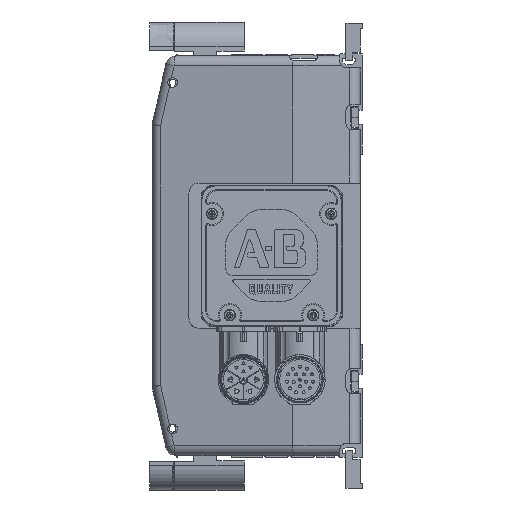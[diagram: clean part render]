
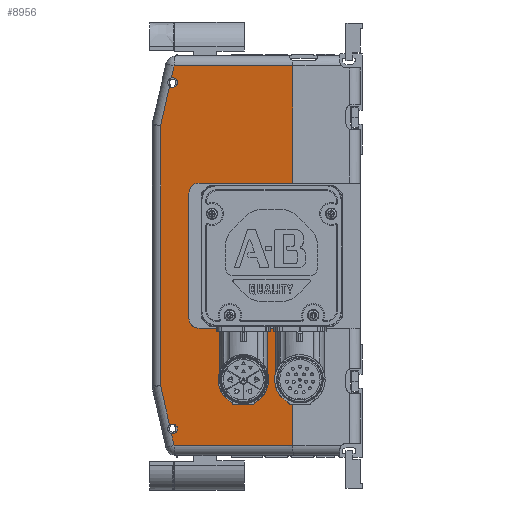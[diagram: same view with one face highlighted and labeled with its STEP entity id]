
A CAD part, left-side view. The second image highlights one B-rep face of the part: STEP entity #8956.
In plain terms, the highlighted planar face has unit normal (-0.985, 0.172, 0).
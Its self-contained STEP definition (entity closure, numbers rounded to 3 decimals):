
#7444=DIRECTION('',(0.,0.,1.));
#7445=VECTOR('',#7444,58.071);
#7446=CARTESIAN_POINT('',(0.,33.317,36.002));
#7447=LINE('',#7446,#7445);
#7522=DIRECTION('',(0.,0.,1.));
#7523=VECTOR('',#7522,58.075);
#7524=CARTESIAN_POINT('',(0.,33.317,-94.073));
#7525=LINE('',#7524,#7523);
#7669=DIRECTION('',(0.172,0.985,0.));
#7670=VECTOR('',#7669,47.214);
#7671=CARTESIAN_POINT('',(0.,33.317,36.002));
#7672=LINE('',#7671,#7670);
#7673=CARTESIAN_POINT('',(8.142,79.823,36.002));
#7674=CARTESIAN_POINT('',(8.287,80.65,36.002));
#7675=CARTESIAN_POINT('',(8.514,81.952,35.644));
#7676=CARTESIAN_POINT('',(8.772,83.424,34.62));
#7677=CARTESIAN_POINT('',(8.953,84.457,33.15));
#7678=CARTESIAN_POINT('',(9.017,84.823,31.842));
#7679=CARTESIAN_POINT('',(9.017,84.823,31.002));
#7681=DIRECTION('',(0.,0.,-1.));
#7682=VECTOR('',#7681,62.);
#7683=CARTESIAN_POINT('',(9.017,84.823,31.002));
#7684=LINE('',#7683,#7682);
#7685=CARTESIAN_POINT('',(9.017,84.823,-30.998));
#7686=CARTESIAN_POINT('',(9.017,84.823,-31.838));
#7687=CARTESIAN_POINT('',(8.953,84.457,-33.146));
#7688=CARTESIAN_POINT('',(8.772,83.424,-34.616));
#7689=CARTESIAN_POINT('',(8.514,81.952,-35.64));
#7690=CARTESIAN_POINT('',(8.287,80.65,-35.998));
#7691=CARTESIAN_POINT('',(8.142,79.823,-35.998));
#7693=DIRECTION('',(0.172,0.985,0.));
#7694=VECTOR('',#7693,47.214);
#7695=CARTESIAN_POINT('',(0.,33.317,-35.998));
#7696=LINE('',#7695,#7694);
#7697=DIRECTION('',(0.172,0.985,0.));
#7698=VECTOR('',#7697,59.786);
#7699=CARTESIAN_POINT('',(0.,33.317,-94.073));
#7700=LINE('',#7699,#7698);
#7701=DIRECTION('',(0.038,0.219,0.975));
#7702=VECTOR('',#7701,6.036);
#7703=CARTESIAN_POINT('',(10.31,92.207,-94.073));
#7704=LINE('',#7703,#7702);
#7705=DIRECTION('',(0.038,0.219,0.975));
#7706=VECTOR('',#7705,20.124);
#7707=CARTESIAN_POINT('',(10.705,94.462,-84.016));
#7708=LINE('',#7707,#7706);
#7709=DIRECTION('',(-0.038,-0.219,0.975));
#7710=VECTOR('',#7709,20.101);
#7711=CARTESIAN_POINT('',(11.475,98.862,64.394));
#7712=LINE('',#7711,#7710);
#7713=DIRECTION('',(-0.038,-0.219,0.975));
#7714=VECTOR('',#7713,6.064);
#7715=CARTESIAN_POINT('',(10.542,93.533,88.16));
#7716=LINE('',#7715,#7714);
#7717=DIRECTION('',(-0.172,-0.985,0.));
#7718=VECTOR('',#7717,59.786);
#7719=CARTESIAN_POINT('',(10.31,92.207,94.073));
#7720=LINE('',#7719,#7718);
#7993=CARTESIAN_POINT('',(10.436,92.93,83.437));
#7994=CARTESIAN_POINT('',(10.387,92.647,83.437));
#7995=CARTESIAN_POINT('',(10.28,92.036,83.54));
#7996=CARTESIAN_POINT('',(10.13,91.182,84.088));
#7997=CARTESIAN_POINT('',(10.034,90.633,84.949));
#7998=CARTESIAN_POINT('',(10.007,90.479,85.837));
#7999=CARTESIAN_POINT('',(10.034,90.633,86.725));
#8000=CARTESIAN_POINT('',(10.13,91.182,87.586));
#8001=CARTESIAN_POINT('',(10.28,92.036,88.134));
#8002=CARTESIAN_POINT('',(10.387,92.647,88.237));
#8003=CARTESIAN_POINT('',(10.436,92.93,88.237));
#8009=CARTESIAN_POINT('',(10.436,92.93,88.237));
#8010=CARTESIAN_POINT('',(10.472,93.134,88.237));
#8011=CARTESIAN_POINT('',(10.507,93.335,88.211));
#8012=CARTESIAN_POINT('',(10.542,93.533,88.16));
#8018=CARTESIAN_POINT('',(10.705,94.467,83.994));
#8019=CARTESIAN_POINT('',(10.627,94.021,83.622));
#8020=CARTESIAN_POINT('',(10.538,93.508,83.437));
#8021=CARTESIAN_POINT('',(10.436,92.93,83.437));
#8061=DIRECTION('',(0.,0.,-1.));
#8062=VECTOR('',#8061,128.789);
#8063=CARTESIAN_POINT('',(11.475,98.862,64.394));
#8064=LINE('',#8063,#8062);
#8095=CARTESIAN_POINT('',(10.436,92.93,-83.463));
#8096=CARTESIAN_POINT('',(10.537,93.506,-83.463));
#8097=CARTESIAN_POINT('',(10.627,94.017,-83.646));
#8098=CARTESIAN_POINT('',(10.705,94.462,-84.016));
#8104=CARTESIAN_POINT('',(10.541,93.527,-88.188));
#8105=CARTESIAN_POINT('',(10.507,93.331,-88.238));
#8106=CARTESIAN_POINT('',(10.472,93.132,-88.263));
#8107=CARTESIAN_POINT('',(10.436,92.93,-88.263));
#8109=CARTESIAN_POINT('',(10.436,92.93,-88.263));
#8110=CARTESIAN_POINT('',(10.387,92.647,-88.263));
#8111=CARTESIAN_POINT('',(10.28,92.036,-88.16));
#8112=CARTESIAN_POINT('',(10.13,91.182,-87.612));
#8113=CARTESIAN_POINT('',(10.034,90.633,-86.751));
#8114=CARTESIAN_POINT('',(10.007,90.479,-85.863));
#8115=CARTESIAN_POINT('',(10.034,90.633,-84.975));
#8116=CARTESIAN_POINT('',(10.13,91.182,-84.114));
#8117=CARTESIAN_POINT('',(10.28,92.036,-83.566));
#8118=CARTESIAN_POINT('',(10.387,92.647,-83.463));
#8119=CARTESIAN_POINT('',(10.436,92.93,-83.463));
#8490=VERTEX_POINT('',#7993);
#8491=VERTEX_POINT('',#8003);
#8492=VERTEX_POINT('',#8109);
#8493=VERTEX_POINT('',#8119);
#8499=CARTESIAN_POINT('',(0.,33.317,94.073));
#8500=VERTEX_POINT('',#8499);
#8507=CARTESIAN_POINT('',(0.,33.317,-94.073));
#8508=VERTEX_POINT('',#8507);
#8535=CARTESIAN_POINT('',(0.,33.317,36.002));
#8537=VERTEX_POINT('',#8535);
#8539=CARTESIAN_POINT('',(0.,33.317,-35.998));
#8541=VERTEX_POINT('',#8539);
#8550=CARTESIAN_POINT('',(8.142,79.823,36.002));
#8551=VERTEX_POINT('',#8550);
#8552=VERTEX_POINT('',#7679);
#8553=CARTESIAN_POINT('',(9.017,84.823,-30.998));
#8554=VERTEX_POINT('',#8553);
#8555=VERTEX_POINT('',#7691);
#8600=CARTESIAN_POINT('',(11.475,98.862,64.394));
#8601=VERTEX_POINT('',#8600);
#8602=CARTESIAN_POINT('',(10.705,94.467,83.994));
#8603=VERTEX_POINT('',#8602);
#8604=CARTESIAN_POINT('',(10.542,93.533,88.16));
#8605=CARTESIAN_POINT('',(10.31,92.207,94.073));
#8606=VERTEX_POINT('',#8604);
#8607=VERTEX_POINT('',#8605);
#8612=CARTESIAN_POINT('',(11.475,98.862,-64.394));
#8614=VERTEX_POINT('',#8612);
#8618=CARTESIAN_POINT('',(10.705,94.462,-84.016));
#8619=VERTEX_POINT('',#8618);
#8620=CARTESIAN_POINT('',(10.31,92.207,-94.073));
#8621=CARTESIAN_POINT('',(10.541,93.527,-88.188));
#8622=VERTEX_POINT('',#8620);
#8623=VERTEX_POINT('',#8621);
#8913=CARTESIAN_POINT('',(0.,33.317,100.));
#8914=DIRECTION('',(0.985,-0.172,0.));
#8915=DIRECTION('',(0.172,0.985,0.));
#8916=AXIS2_PLACEMENT_3D('',#8913,#8914,#8915);
#8917=PLANE('',#8916);
#8918=ORIENTED_EDGE('',*,*,#8698,.T.);
#8920=ORIENTED_EDGE('',*,*,#8919,.T.);
#8922=ORIENTED_EDGE('',*,*,#8921,.T.);
#8924=ORIENTED_EDGE('',*,*,#8923,.T.);
#8925=ORIENTED_EDGE('',*,*,#8903,.F.);
#8926=ORIENTED_EDGE('',*,*,#8679,.F.);
#8928=ORIENTED_EDGE('',*,*,#8927,.T.);
#8930=ORIENTED_EDGE('',*,*,#8929,.T.);
#8932=ORIENTED_EDGE('',*,*,#8931,.T.);
#8934=ORIENTED_EDGE('',*,*,#8933,.T.);
#8936=ORIENTED_EDGE('',*,*,#8935,.T.);
#8938=ORIENTED_EDGE('',*,*,#8937,.T.);
#8940=ORIENTED_EDGE('',*,*,#8939,.F.);
#8942=ORIENTED_EDGE('',*,*,#8941,.T.);
#8944=ORIENTED_EDGE('',*,*,#8943,.T.);
#8946=ORIENTED_EDGE('',*,*,#8945,.T.);
#8948=ORIENTED_EDGE('',*,*,#8947,.T.);
#8950=ORIENTED_EDGE('',*,*,#8949,.T.);
#8952=ORIENTED_EDGE('',*,*,#8951,.T.);
#8953=ORIENTED_EDGE('',*,*,#8635,.F.);
#8954=EDGE_LOOP('',(#8918,#8920,#8922,#8924,#8925,#8926,#8928,#8930,#8932,#8934,
#8936,#8938,#8940,#8942,#8944,#8946,#8948,#8950,#8952,#8953));
#8955=FACE_OUTER_BOUND('',#8954,.F.);
#8956=ADVANCED_FACE('',(#8955),#8917,.F.);
#7680=B_SPLINE_CURVE_WITH_KNOTS('',3,(#7673,#7674,#7675,#7676,#7677,#7678,
#7679),.UNSPECIFIED.,.F.,.F.,(4,1,1,1,4),(0.,0.25,0.5,0.75,1.),
.UNSPECIFIED.);
#7692=B_SPLINE_CURVE_WITH_KNOTS('',3,(#7685,#7686,#7687,#7688,#7689,#7690,
#7691),.UNSPECIFIED.,.F.,.F.,(4,1,1,1,4),(0.,0.25,0.5,0.75,1.),
.UNSPECIFIED.);
#8004=B_SPLINE_CURVE_WITH_KNOTS('',3,(#7993,#7994,#7995,#7996,#7997,#7998,#7999,
#8000,#8001,#8002,#8003),.UNSPECIFIED.,.F.,.F.,(4,1,1,1,1,1,1,1,4),(0.,
0.125,0.25,0.375,0.5,0.625,0.75,0.875,1.),.UNSPECIFIED.);
#8013=B_SPLINE_CURVE_WITH_KNOTS('',3,(#8009,#8010,#8011,#8012),.UNSPECIFIED.,
.F.,.F.,(4,4),(0.,1.),.UNSPECIFIED.);
#8022=B_SPLINE_CURVE_WITH_KNOTS('',3,(#8018,#8019,#8020,#8021),.UNSPECIFIED.,
.F.,.F.,(4,4),(0.,1.),.UNSPECIFIED.);
#8099=B_SPLINE_CURVE_WITH_KNOTS('',3,(#8095,#8096,#8097,#8098),.UNSPECIFIED.,
.F.,.F.,(4,4),(0.,1.),.UNSPECIFIED.);
#8108=B_SPLINE_CURVE_WITH_KNOTS('',3,(#8104,#8105,#8106,#8107),.UNSPECIFIED.,
.F.,.F.,(4,4),(0.,1.),.UNSPECIFIED.);
#8120=B_SPLINE_CURVE_WITH_KNOTS('',3,(#8109,#8110,#8111,#8112,#8113,#8114,#8115,
#8116,#8117,#8118,#8119),.UNSPECIFIED.,.F.,.F.,(4,1,1,1,1,1,1,1,4),(0.,
0.125,0.25,0.375,0.5,0.625,0.75,0.875,1.),.UNSPECIFIED.);
#8635=EDGE_CURVE('',#8537,#8500,#7447,.T.);
#8679=EDGE_CURVE('',#8508,#8541,#7525,.T.);
#8698=EDGE_CURVE('',#8537,#8551,#7672,.T.);
#8903=EDGE_CURVE('',#8541,#8555,#7696,.T.);
#8919=EDGE_CURVE('',#8551,#8552,#7680,.T.);
#8921=EDGE_CURVE('',#8552,#8554,#7684,.T.);
#8923=EDGE_CURVE('',#8554,#8555,#7692,.T.);
#8927=EDGE_CURVE('',#8508,#8622,#7700,.T.);
#8929=EDGE_CURVE('',#8622,#8623,#7704,.T.);
#8931=EDGE_CURVE('',#8623,#8492,#8108,.T.);
#8933=EDGE_CURVE('',#8492,#8493,#8120,.T.);
#8935=EDGE_CURVE('',#8493,#8619,#8099,.T.);
#8937=EDGE_CURVE('',#8619,#8614,#7708,.T.);
#8939=EDGE_CURVE('',#8601,#8614,#8064,.T.);
#8941=EDGE_CURVE('',#8601,#8603,#7712,.T.);
#8943=EDGE_CURVE('',#8603,#8490,#8022,.T.);
#8945=EDGE_CURVE('',#8490,#8491,#8004,.T.);
#8947=EDGE_CURVE('',#8491,#8606,#8013,.T.);
#8949=EDGE_CURVE('',#8606,#8607,#7716,.T.);
#8951=EDGE_CURVE('',#8607,#8500,#7720,.T.);
